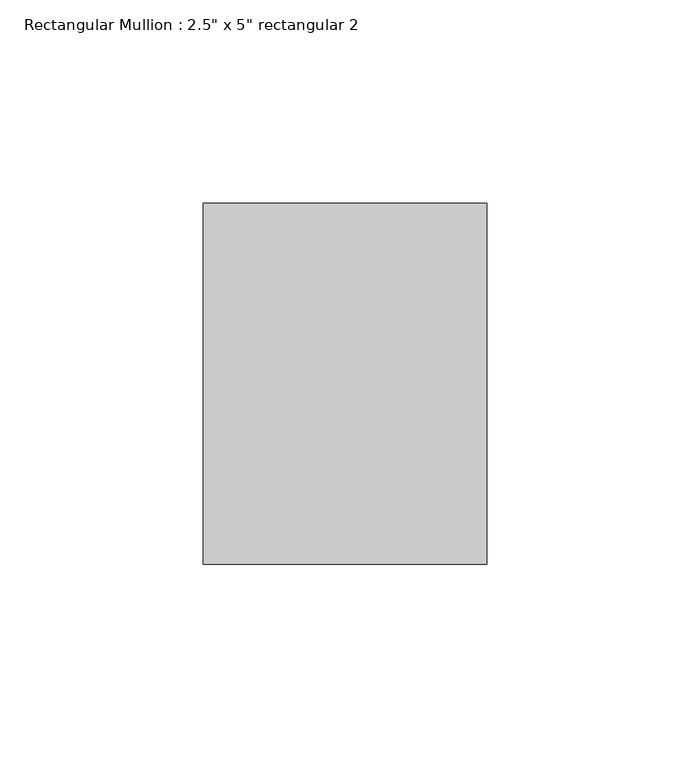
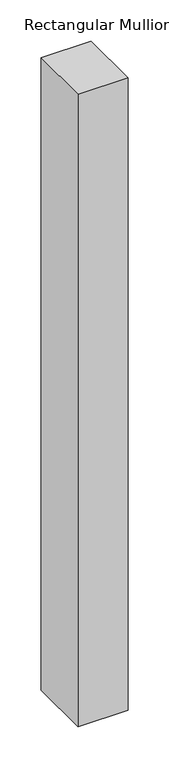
"""IFC4 building model written with IfcOpenShell, lengths in millimetres: member geometry."""

from ifc_helpers import new_model, si_unit, frame, origin, place, context, project, spatial, polyline, outline, extrude, source, transform, mapped, element, save


def member_2e66d5be(model_context):
    return source(origin(), model_context, "Body", "SweptSolid", [
        extrude(outline(polyline([(0.0, 44.45), (0.0, -44.45), (-69.85, -44.45), (-69.85, 44.45), (0.0, 44.45)])), frame((0.0, 0.0, -934.3733189), z_axis=(0.0, 0.0, 1.0), x_axis=(1.0, 0.0, 0.0)), (0.0, 0.0, 1.0), 934.3733189),
    ])


if __name__ == "__main__":
    model = new_model("IFC4")
    model_context = context("Model", 3, world=origin())
    ifc_project = project(units=[si_unit("LENGTHUNIT", "METRE", prefix="MILLI")], contexts=[model_context])
    site = spatial("IfcSite", under=ifc_project)
    building = spatial("IfcBuilding", under=site)
    placement = place(None, origin())
    member_shape = member_2e66d5be(model_context)
    element("IfcMember", 1, ObjectType="Rectangular Mullion : 2.5\" x 5\" rectangular 2", at=placement, inside=building, context=model_context, shape_type="MappedRepresentation", body=[
        mapped(member_shape, transform((0.0, 0.0, 0.0), x_axis=(1.0, 0.0, 0.0), y_axis=(0.0, 1.0, 0.0), z_axis=(0.0, 0.0, 1.0))),
    ])
    save(model, "model.ifc")
